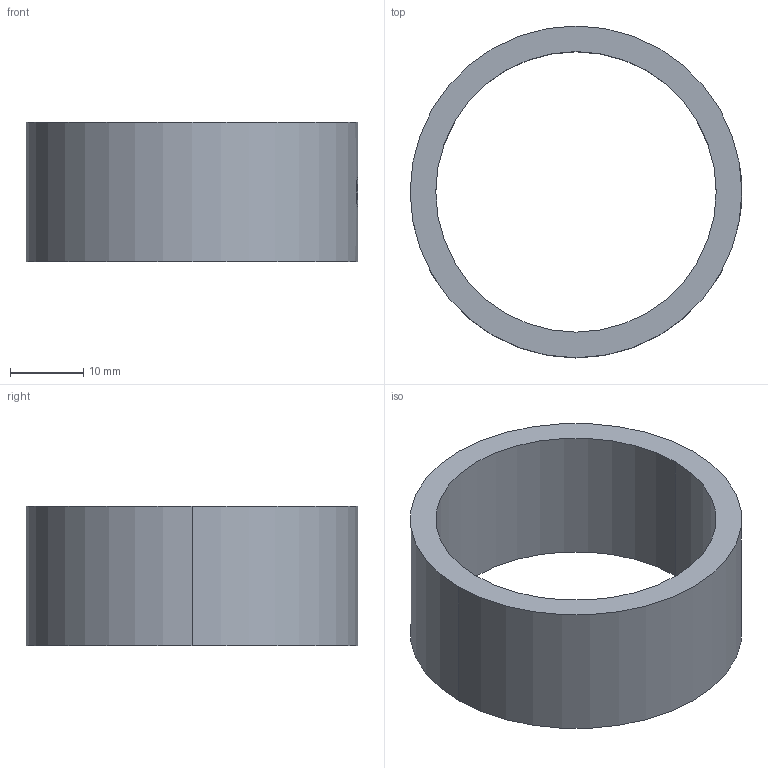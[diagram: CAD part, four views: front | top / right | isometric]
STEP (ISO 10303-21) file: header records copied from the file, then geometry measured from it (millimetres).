
FILE_DESCRIPTION (( 'STEP AP203' ), '1' );
FILE_NAME ('WJ-D 42.STEP', '2007-02-21T09:15:29', ( ' ' ), ( '' ), 'SwSTEP 2.0', 'SolidWorks 2005278', '' );
FILE_SCHEMA (( 'CONFIG_CONTROL_DESIGN' ));
Length unit declared in the file: millimetre
Products named in the file (1): WJ-D 42
Bounding box: 45.3 x 45.3 x 19 mm (x, y, z)
Volume: 8732.3 mm3; surface area: 5910.5 mm2
Topology: 1 solids, 1 shells, 43 faces, 117 edges, 78 vertices
Faces by surface type: plane 36, cylinder 7
Entity records: 1468 total; most frequent: CARTESIAN_POINT 299, ORIENTED_EDGE 234, DIRECTION 221, EDGE_CURVE 117, AXIS2_PLACEMENT_3D 80, VERTEX_POINT 78, VECTOR 61, LINE 61
